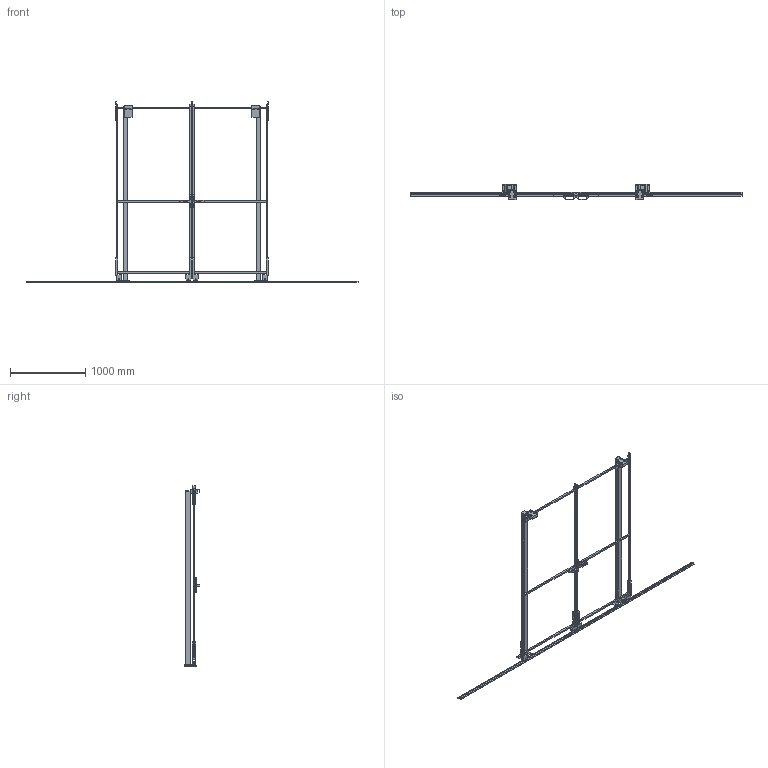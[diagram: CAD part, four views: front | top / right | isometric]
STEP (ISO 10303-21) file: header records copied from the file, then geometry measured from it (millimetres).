
FILE_DESCRIPTION(/* description */ (''),/* implementation_level */ '2;1');
FILE_NAME(/* name */ 'C:\SafeGuarding\ELABORATI\Drawing4_2025-05-14-13-36-24.stp',/* time_stamp */ '2025-05-14T13:36:26+02:00',/* author */ ('admin'),/* organization */ (''),/* preprocessor_version */ 'ST-DEVELOPER v18.1',/* originating_system */ 'AutoCAD Mechanical',/* authorisation */ '');
FILE_SCHEMA (('AUTOMOTIVE_DESIGN { 1 0 10303 214 3 1 1 }','TECHNICAL_DATA_PACKAGING'));
Length unit declared in the file: millimetre
Products named in the file (3): Product; R_VFPA.REPE20.10002200; P_VFMA.V260SDU.2320
Assembly tree (4 placements, depth 2):
  Product
    R_VFPA.REPE20.10002200  x2
    P_VFMA.V260SDU.2320  x2
Bounding box: 4400 x 211.4 x 2390 mm (x, y, z)
Volume: 25526517.8 mm3; surface area: 3717671.8 mm2
Topology: 52 solids, 74 shells, 504 faces, 1556 edges, 1456 vertices
Faces by surface type: plane 440, cylinder 56, cone 8
Full cylindrical faces by diameter (mm): 9 x8, 11 x8, 13 x8, 14 x4, 18 x8, 30 x4, 36 x8, 58 x8
Entity records: 15231 total; most frequent: CARTESIAN_POINT 3205, DIRECTION 2300, ORIENTED_EDGE 2224, EDGE_CURVE 1210, LINE 990, VECTOR 990, VERTEX_POINT 888, AXIS2_PLACEMENT_3D 655
